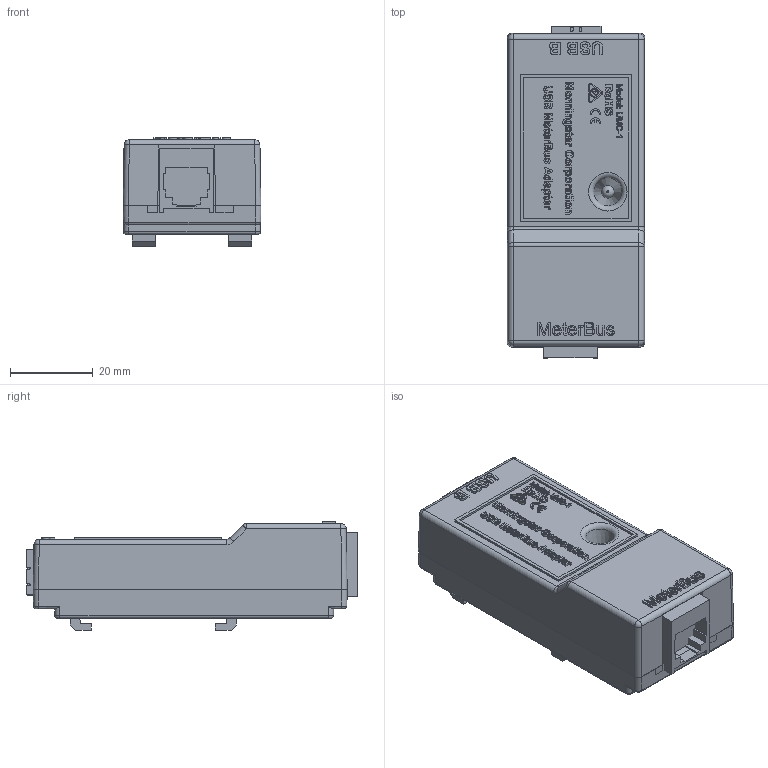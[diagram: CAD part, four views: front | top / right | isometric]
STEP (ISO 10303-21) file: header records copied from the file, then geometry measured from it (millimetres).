
FILE_DESCRIPTION(/* description */ ('Unknown'),/* implementation_level */ '2;1');
FILE_NAME(/* name */ 'UMC-1 PUBLIC',/* time_stamp */ '2017-09-28T10:41:34-04:00',/* author */ ('Unknown'),/* organization */ ('Unknown'),/* preprocessor_version */ 'ST-DEVELOPER v16.7',/* originating_system */ 'DEX',/* authorisation */ $);
FILE_SCHEMA (('AUTOMOTIVE_DESIGN {1 0 10303 214 3 1 1}'));
Products named in the file (7): MS-ASM-00118 PUBLIC; MS-001363 PUBLIC; MS-ASM-00119 PUBLIC; RJ11-right_angle; T1 Bi-color LED; USB B Female PCB Connector; MS-001362 PUBLIC
Assembly tree (6 placements, depth 3):
  MS-ASM-00118 PUBLIC
    MS-001363 PUBLIC
    MS-ASM-00119 PUBLIC
      RJ11-right_angle
      T1 Bi-color LED
      USB B Female PCB Connector
    MS-001362 PUBLIC
Bounding box: 33.35 x 80.23 x 26.29 mm (x, y, z)
Volume: 48927.5 mm3; surface area: 22113.9 mm2
Topology: 5 solids, 15 shells, 1428 faces, 3699 edges, 2416 vertices
Faces by surface type: plane 1058, bspline 212, cylinder 149, sphere 6, torus 2, cone 1
Full cylindrical faces by diameter (mm): 0.508 x7, 0.559 x6, 2.921 x2, 2.997 x1, 4.064 x1, 11.43 x1
Entity records: 60830 total; most frequent: CARTESIAN_POINT 27169, ORIENTED_EDGE 7226, DIRECTION 6022, EDGE_CURVE 3613, LINE 2878, VECTOR 2878, VERTEX_POINT 2408, EDGE_LOOP 1649
